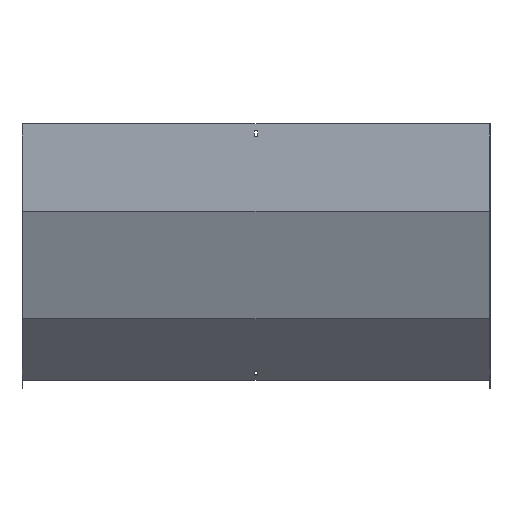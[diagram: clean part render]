
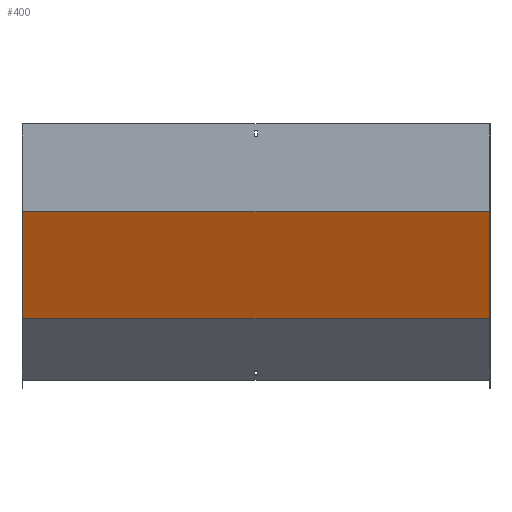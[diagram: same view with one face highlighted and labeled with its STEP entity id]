
A CAD part, front view. The second image highlights one B-rep face of the part: STEP entity #400.
In plain terms, the highlighted planar face has unit normal (0, -0.924, -0.383).
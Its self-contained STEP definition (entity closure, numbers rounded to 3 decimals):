
#7 = FACE_OUTER_BOUND ( 'NONE', #828, .T. ) ;
#29 = EDGE_CURVE ( 'NONE', #358, #462, #519, .T. ) ;
#112 = DIRECTION ( 'NONE',  ( 0., 0.383, -0.924 ) ) ;
#128 = PLANE ( 'NONE',  #380 ) ;
#131 = CARTESIAN_POINT ( 'NONE',  ( 401.5, -1.5, -150.098 ) ) ;
#160 = LINE ( 'NONE', #345, #782 ) ;
#198 = EDGE_CURVE ( 'NONE', #358, #234, #160, .T. ) ;
#204 = DIRECTION ( 'NONE',  ( 0., -0.383, 0.924 ) ) ;
#234 = VERTEX_POINT ( 'NONE', #609 ) ;
#262 = VECTOR ( 'NONE', #386, 1000. ) ;
#345 = CARTESIAN_POINT ( 'NONE',  ( 400., -54.348, -22.512 ) ) ;
#358 = VERTEX_POINT ( 'NONE', #791 ) ;
#380 = AXIS2_PLACEMENT_3D ( 'NONE', #521, #783, #204 ) ;
#386 = DIRECTION ( 'NONE',  ( -1., 0., 0. ) ) ;
#400 = ADVANCED_FACE ( 'NONE', ( #7 ), #128, .F. ) ;
#439 = ORIENTED_EDGE ( 'NONE', *, *, #511, .T. ) ;
#462 = VERTEX_POINT ( 'NONE', #665 ) ;
#475 = EDGE_CURVE ( 'NONE', #234, #754, #482, .T. ) ;
#476 = ORIENTED_EDGE ( 'NONE', *, *, #475, .F. ) ;
#482 = LINE ( 'NONE', #622, #790 ) ;
#487 = CARTESIAN_POINT ( 'NONE',  ( -400., -54.348, -22.512 ) ) ;
#511 = EDGE_CURVE ( 'NONE', #462, #754, #567, .T. ) ;
#519 = LINE ( 'NONE', #131, #262 ) ;
#521 = CARTESIAN_POINT ( 'NONE',  ( 401.5, -1.386, -150.374 ) ) ;
#550 = ORIENTED_EDGE ( 'NONE', *, *, #198, .F. ) ;
#567 = LINE ( 'NONE', #487, #837 ) ;
#571 = CARTESIAN_POINT ( 'NONE',  ( -400., 74.691, -334.04 ) ) ;
#573 = ORIENTED_EDGE ( 'NONE', *, *, #29, .T. ) ;
#609 = CARTESIAN_POINT ( 'NONE',  ( 400., 74.691, -334.04 ) ) ;
#622 = CARTESIAN_POINT ( 'NONE',  ( 401.5, 74.691, -334.04 ) ) ;
#665 = CARTESIAN_POINT ( 'NONE',  ( -400., -1.5, -150.098 ) ) ;
#751 = DIRECTION ( 'NONE',  ( -1., 0., 0. ) ) ;
#754 = VERTEX_POINT ( 'NONE', #571 ) ;
#782 = VECTOR ( 'NONE', #804, 1000. ) ;
#783 = DIRECTION ( 'NONE',  ( 0., 0.924, 0.383 ) ) ;
#790 = VECTOR ( 'NONE', #751, 1000. ) ;
#791 = CARTESIAN_POINT ( 'NONE',  ( 400., -1.5, -150.098 ) ) ;
#804 = DIRECTION ( 'NONE',  ( 0., 0.383, -0.924 ) ) ;
#828 = EDGE_LOOP ( 'NONE', ( #439, #476, #550, #573 ) ) ;
#837 = VECTOR ( 'NONE', #112, 1000. ) ;
